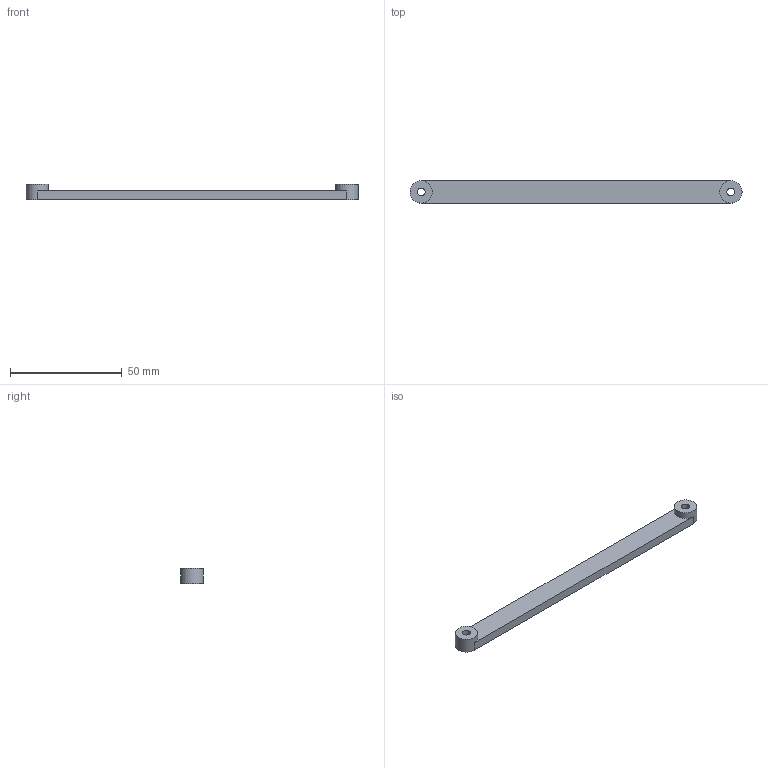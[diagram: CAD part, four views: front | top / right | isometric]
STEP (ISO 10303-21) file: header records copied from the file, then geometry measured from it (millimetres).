
FILE_DESCRIPTION(/* description */ (''),/* implementation_level */ '2;1');
FILE_NAME(/* name */ 'D:\3D печать\Мои проекты\Archy MK 2\STEP\крепление платы и проводов.stp',/* time_stamp */ '2019-03-20T22:07:37+06:00',/* author */ ('Пользователь'),/* organization */ (''),/* preprocessor_version */ 'ST-DEVELOPER v16.5',/* originating_system */ 'Autodesk Inventor 2017',/* authorisation */ '');
FILE_SCHEMA (('AUTOMOTIVE_DESIGN { 1 0 10303 214 3 1 1 }'));
Length unit declared in the file: millimetre
Products named in the file (1): крепление \X2\043F043B
04300442044B\X0\ и проводов
Bounding box: 148.5 x 10 x 7 mm (x, y, z)
Volume: 6190.7 mm3; surface area: 4464.7 mm2
Topology: 1 solids, 1 shells, 10 faces, 26 edges, 18 vertices
Faces by surface type: plane 6, cylinder 4
Full cylindrical faces by diameter (mm): 3.5 x2, 10 x2
Entity records: 292 total; most frequent: DIRECTION 50, CARTESIAN_POINT 43, ORIENTED_EDGE 36, AXIS2_PLACEMENT_3D 21, EDGE_LOOP 18, EDGE_CURVE 18, VERTEX_POINT 14, CIRCLE 10
